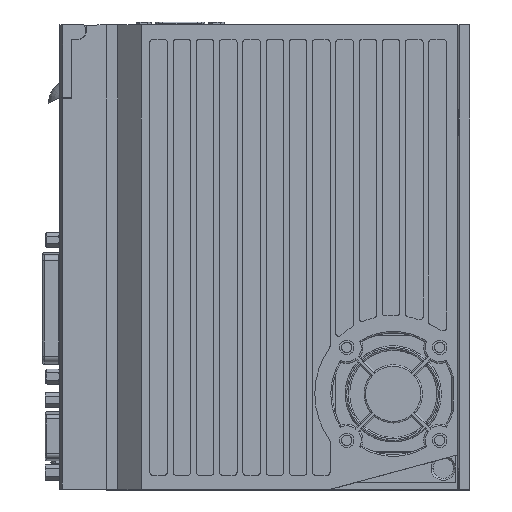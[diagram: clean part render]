
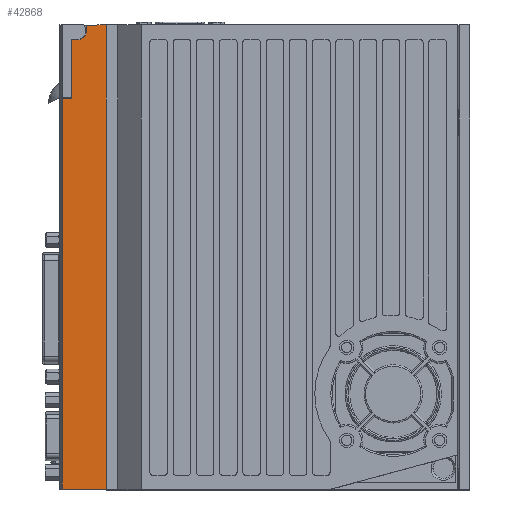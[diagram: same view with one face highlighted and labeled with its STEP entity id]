
A CAD part, top view. The second image highlights one B-rep face of the part: STEP entity #42868.
In plain terms, the highlighted planar face has unit normal (-0.018, 0, 1).
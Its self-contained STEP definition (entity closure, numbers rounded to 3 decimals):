
#1524=DIRECTION('',(0.,1.,0.));
#1525=VECTOR('',#1524,160.);
#1526=CARTESIAN_POINT('',(15.,0.,21.));
#1527=LINE('',#1526,#1525);
#1528=CARTESIAN_POINT('',(-0.153,134.732,
20.736));
#1529=CARTESIAN_POINT('',(0.188,134.738,20.741));
#1530=CARTESIAN_POINT('',(0.875,134.755,20.753));
#1531=CARTESIAN_POINT('',(1.926,134.771,20.772));
#1532=CARTESIAN_POINT('',(2.64,134.784,20.784));
#1533=CARTESIAN_POINT('',(3.,134.791,20.791));
#1535=DIRECTION('',(0.,1.,0.));
#1536=VECTOR('',#1535,0.253);
#1537=CARTESIAN_POINT('',(3.,134.791,20.791));
#1538=LINE('',#1537,#1536);
#1539=DIRECTION('',(0.,1.,0.));
#1540=VECTOR('',#1539,19.756);
#1541=CARTESIAN_POINT('',(3.,135.044,20.791));
#1542=LINE('',#1541,#1540);
#1543=CARTESIAN_POINT('',(5.,154.8,20.825));
#1544=CARTESIAN_POINT('',(5.074,154.8,20.827));
#1545=CARTESIAN_POINT('',(5.222,154.805,20.829));
#1546=CARTESIAN_POINT('',(5.447,154.829,20.833));
#1547=CARTESIAN_POINT('',(5.671,154.868,20.837));
#1548=CARTESIAN_POINT('',(5.892,154.924,20.841));
#1549=CARTESIAN_POINT('',(6.11,154.996,20.845));
#1550=CARTESIAN_POINT('',(6.323,155.083,20.849));
#1551=CARTESIAN_POINT('',(6.53,155.186,20.852));
#1552=CARTESIAN_POINT('',(6.728,155.303,20.856));
#1553=CARTESIAN_POINT('',(6.917,155.434,20.859));
#1554=CARTESIAN_POINT('',(7.097,155.579,20.862));
#1555=CARTESIAN_POINT('',(7.265,155.735,20.865));
#1556=CARTESIAN_POINT('',(7.421,155.903,20.868));
#1557=CARTESIAN_POINT('',(7.565,156.083,20.87));
#1558=CARTESIAN_POINT('',(7.697,156.272,20.873));
#1559=CARTESIAN_POINT('',(7.814,156.47,20.875));
#1560=CARTESIAN_POINT('',(7.916,156.676,20.876));
#1561=CARTESIAN_POINT('',(8.004,156.89,20.878));
#1562=CARTESIAN_POINT('',(8.076,157.108,20.879));
#1563=CARTESIAN_POINT('',(8.132,157.329,20.88));
#1564=CARTESIAN_POINT('',(8.171,157.553,20.881));
#1565=CARTESIAN_POINT('',(8.195,157.777,20.881));
#1566=CARTESIAN_POINT('',(8.2,157.926,20.881));
#1567=CARTESIAN_POINT('',(8.2,158.,20.881));
#1569=CARTESIAN_POINT('',(8.2,158.,20.881));
#1570=CARTESIAN_POINT('',(8.2,158.208,20.881));
#1571=CARTESIAN_POINT('',(8.2,158.624,20.881));
#1572=CARTESIAN_POINT('',(8.2,159.252,20.881));
#1573=CARTESIAN_POINT('',(8.2,159.671,20.881));
#1574=CARTESIAN_POINT('',(8.2,159.881,20.881));
#1576=DIRECTION('',(1.,0.017,0.017));
#1577=VECTOR('',#1576,6.802);
#1578=CARTESIAN_POINT('',(8.2,159.881,20.881));
#1579=LINE('',#1578,#1577);
#1605=CARTESIAN_POINT('',(-0.153,0.268,
20.736));
#1606=CARTESIAN_POINT('',(1.511,0.239,20.765));
#1607=CARTESIAN_POINT('',(4.852,0.176,20.823));
#1608=CARTESIAN_POINT('',(9.903,0.089,20.911));
#1609=CARTESIAN_POINT('',(13.297,0.03,20.97));
#1610=CARTESIAN_POINT('',(15.,0.,21.));
#11930=DIRECTION('',(-1.,0.,
-0.017));
#11931=VECTOR('',#11930,2.);
#11932=CARTESIAN_POINT('',(5.,154.8,20.825));
#11933=LINE('',#11932,#11931);
#12726=CARTESIAN_POINT('',(-0.153,134.732,
20.736));
#12727=CARTESIAN_POINT('',(-0.153,119.793,
20.736));
#12728=CARTESIAN_POINT('',(-0.153,89.908,
20.736));
#12729=CARTESIAN_POINT('',(-0.153,45.092,
20.736));
#12730=CARTESIAN_POINT('',(-0.153,15.207,
20.736));
#12731=CARTESIAN_POINT('',(-0.153,0.268,
20.736));
#32875=CARTESIAN_POINT('',(15.,0.,21.));
#32877=VERTEX_POINT('',#32875);
#33173=CARTESIAN_POINT('',(15.,160.,21.));
#33174=VERTEX_POINT('',#33173);
#33177=VERTEX_POINT('',#1605);
#33178=VERTEX_POINT('',#12726);
#33179=VERTEX_POINT('',#1533);
#33180=CARTESIAN_POINT('',(3.,135.044,20.791));
#33181=VERTEX_POINT('',#33180);
#33182=CARTESIAN_POINT('',(3.,154.8,20.791));
#33183=VERTEX_POINT('',#33182);
#33184=CARTESIAN_POINT('',(5.,154.8,20.825));
#33185=VERTEX_POINT('',#33184);
#33186=VERTEX_POINT('',#1567);
#33187=VERTEX_POINT('',#1574);
#42842=CARTESIAN_POINT('',(15.,0.,21.));
#42843=DIRECTION('',(-0.017,0.,1.));
#42844=DIRECTION('',(1.,0.,0.017));
#42845=AXIS2_PLACEMENT_3D('',#42842,#42843,#42844);
#42846=PLANE('',#42845);
#42847=ORIENTED_EDGE('',*,*,#42832,.F.);
#42849=ORIENTED_EDGE('',*,*,#42848,.F.);
#42851=ORIENTED_EDGE('',*,*,#42850,.F.);
#42853=ORIENTED_EDGE('',*,*,#42852,.T.);
#42855=ORIENTED_EDGE('',*,*,#42854,.T.);
#42857=ORIENTED_EDGE('',*,*,#42856,.T.);
#42859=ORIENTED_EDGE('',*,*,#42858,.F.);
#42861=ORIENTED_EDGE('',*,*,#42860,.T.);
#42863=ORIENTED_EDGE('',*,*,#42862,.T.);
#42865=ORIENTED_EDGE('',*,*,#42864,.T.);
#42866=EDGE_LOOP('',(#42847,#42849,#42851,#42853,#42855,#42857,#42859,#42861,
#42863,#42865));
#42867=FACE_OUTER_BOUND('',#42866,.F.);
#1534=B_SPLINE_CURVE_WITH_KNOTS('',3,(#1528,#1529,#1530,#1531,#1532,#1533),
.UNSPECIFIED.,.F.,.F.,(4,1,1,4),(0.,0.333,0.667,1.),
.UNSPECIFIED.);
#1568=B_SPLINE_CURVE_WITH_KNOTS('',3,(#1543,#1544,#1545,#1546,#1547,#1548,#1549,
#1550,#1551,#1552,#1553,#1554,#1555,#1556,#1557,#1558,#1559,#1560,#1561,#1562,
#1563,#1564,#1565,#1566,#1567),.UNSPECIFIED.,.F.,.F.,(4,1,1,1,1,1,1,1,1,1,1,1,1,
1,1,1,1,1,1,1,1,1,4),(0.,0.045,0.091,
0.136,0.182,0.227,0.273,
0.318,0.364,0.409,0.455,0.5,
0.545,0.591,0.636,0.682,
0.727,0.773,0.818,0.864,
0.909,0.955,1.),.UNSPECIFIED.);
#1575=B_SPLINE_CURVE_WITH_KNOTS('',3,(#1569,#1570,#1571,#1572,#1573,#1574),
.UNSPECIFIED.,.F.,.F.,(4,1,1,4),(0.,0.333,0.667,1.),
.UNSPECIFIED.);
#1611=B_SPLINE_CURVE_WITH_KNOTS('',3,(#1605,#1606,#1607,#1608,#1609,#1610),
.UNSPECIFIED.,.F.,.F.,(4,1,1,4),(0.,0.333,0.667,1.),
.UNSPECIFIED.);
#12732=B_SPLINE_CURVE_WITH_KNOTS('',3,(#12726,#12727,#12728,#12729,#12730,
#12731),.UNSPECIFIED.,.F.,.F.,(4,1,1,4),(0.,0.333,
0.667,1.),.UNSPECIFIED.);
#42832=EDGE_CURVE('',#32877,#33174,#1527,.T.);
#42848=EDGE_CURVE('',#33177,#32877,#1611,.T.);
#42850=EDGE_CURVE('',#33178,#33177,#12732,.T.);
#42852=EDGE_CURVE('',#33178,#33179,#1534,.T.);
#42854=EDGE_CURVE('',#33179,#33181,#1538,.T.);
#42856=EDGE_CURVE('',#33181,#33183,#1542,.T.);
#42858=EDGE_CURVE('',#33185,#33183,#11933,.T.);
#42860=EDGE_CURVE('',#33185,#33186,#1568,.T.);
#42862=EDGE_CURVE('',#33186,#33187,#1575,.T.);
#42864=EDGE_CURVE('',#33187,#33174,#1579,.T.);
#42868=ADVANCED_FACE('',(#42867),#42846,.T.);
